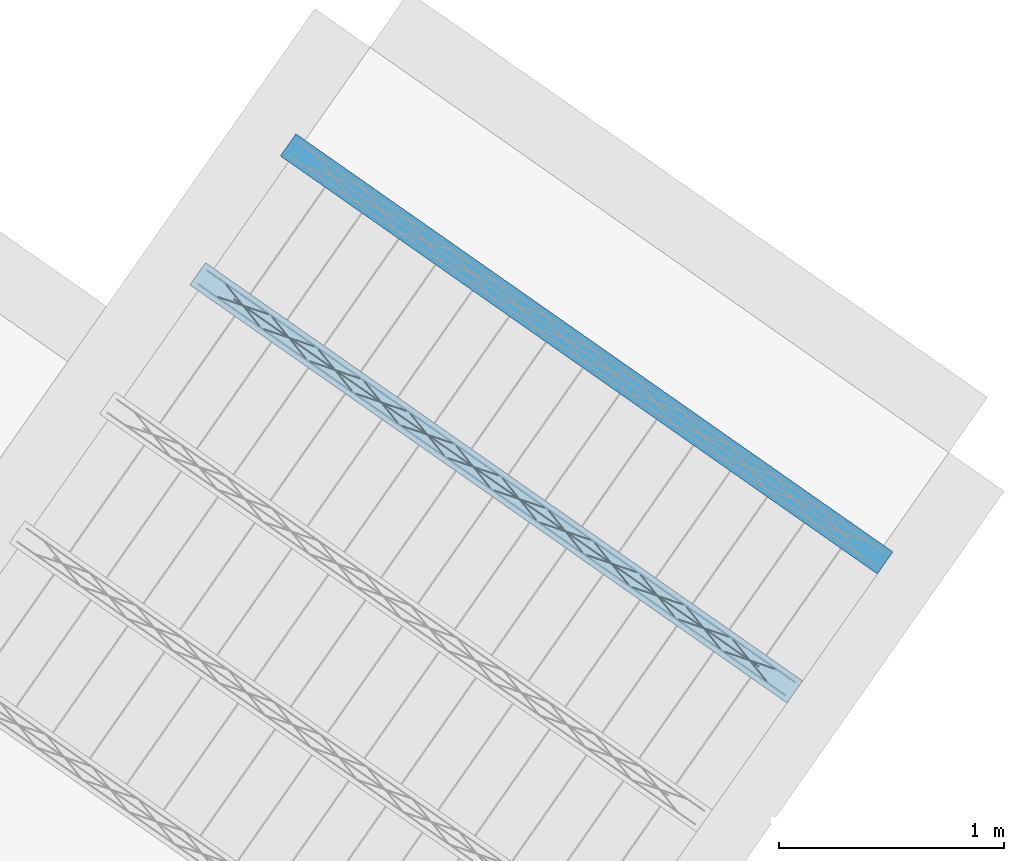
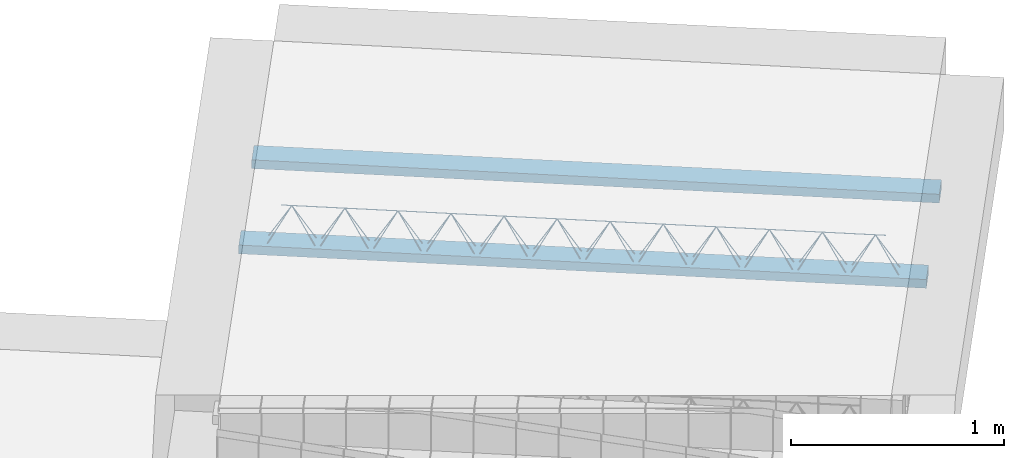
# One storey, part 26 of 46: 2 beams.
"""IFC2X3 building model written with IfcOpenShell, lengths in metres."""

from ifc_helpers import new_model, entity, si_unit, converted_unit, derived_unit, direction, frame, frame_2d, origin, origin_2d_with_axis, place, context, subcontext, project, spatial, rectangle, circle, extrude, material, type_object, element, save


model = new_model("IFC2X3")

# Units and contexts
model_context = context("Model", 3, precision=1e-05, world=origin(), true_north=direction((6.123031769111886e-17, 1.0)))
body_context = subcontext(model_context, "Body", "Model", "MODEL_VIEW")
ifc_project = project(units=[si_unit("LENGTHUNIT", "METRE"), si_unit("AREAUNIT", "SQUARE_METRE"), si_unit("VOLUMEUNIT", "CUBIC_METRE"), converted_unit("PLANEANGLEUNIT", "DEGREE", entity("IfcPlaneAngleMeasure", 0.017453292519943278), si_unit("PLANEANGLEUNIT", "RADIAN"), dimensions=[0, 0, 0, 0, 0, 0, 0]), si_unit("MASSUNIT", "GRAM", prefix="KILO"), derived_unit("MASSDENSITYUNIT", [(si_unit("MASSUNIT", "GRAM", prefix="KILO"), 1), (si_unit("LENGTHUNIT", "METRE"), -3)]), derived_unit("IONCONCENTRATIONUNIT", [(si_unit("MASSUNIT", "GRAM", prefix="KILO"), 1), (si_unit("LENGTHUNIT", "METRE"), -3)]), derived_unit("MOMENTOFINERTIAUNIT", [(si_unit("LENGTHUNIT", "METRE"), 4)]), si_unit("TIMEUNIT", "SECOND"), si_unit("FREQUENCYUNIT", "HERTZ"), si_unit("THERMODYNAMICTEMPERATUREUNIT", "DEGREE_CELSIUS"), derived_unit("THERMALTRANSMITTANCEUNIT", [(si_unit("MASSUNIT", "GRAM", prefix="KILO"), 1), (si_unit("THERMODYNAMICTEMPERATUREUNIT", "KELVIN"), -1), (si_unit("TIMEUNIT", "SECOND"), -3)]), derived_unit("THERMALCONDUCTANCEUNIT", [(si_unit("MASSUNIT", "GRAM", prefix="KILO"), 1), (si_unit("THERMODYNAMICTEMPERATUREUNIT", "KELVIN"), -1), (si_unit("TIMEUNIT", "SECOND"), -3), (si_unit("LENGTHUNIT", "METRE"), 1)]), derived_unit("VOLUMETRICFLOWRATEUNIT", [(si_unit("LENGTHUNIT", "METRE", prefix="DECI"), 3), (si_unit("TIMEUNIT", "SECOND"), -1)]), derived_unit("MASSFLOWRATEUNIT", [(si_unit("MASSUNIT", "GRAM", prefix="KILO"), 1), (si_unit("TIMEUNIT", "SECOND"), -1)]), derived_unit("ROTATIONALFREQUENCYUNIT", [(si_unit("TIMEUNIT", "SECOND"), -1)]), si_unit("ELECTRICCURRENTUNIT", "AMPERE"), si_unit("ELECTRICVOLTAGEUNIT", "VOLT"), si_unit("POWERUNIT", "WATT"), si_unit("FORCEUNIT", "NEWTON", prefix="KILO"), si_unit("ILLUMINANCEUNIT", "LUX"), si_unit("LUMINOUSFLUXUNIT", "LUMEN"), si_unit("LUMINOUSINTENSITYUNIT", "CANDELA"), si_unit("ENERGYUNIT", "JOULE"), derived_unit("USERDEFINED", [(si_unit("MASSUNIT", "GRAM", prefix="KILO"), -1), (si_unit("LENGTHUNIT", "METRE"), -2), (si_unit("TIMEUNIT", "SECOND"), 3), (si_unit("LUMINOUSFLUXUNIT", "LUMEN"), 1)]), derived_unit("USERDEFINED", [(si_unit("MASSUNIT", "GRAM", prefix="KILO"), 1), (si_unit("TIMEUNIT", "SECOND"), -3), (si_unit("LENGTHUNIT", "METRE"), 3), (si_unit("ELECTRICCURRENTUNIT", "AMPERE"), -2)]), derived_unit("SOUNDPOWERUNIT", [(si_unit("MASSUNIT", "GRAM", prefix="KILO"), 1), (si_unit("TIMEUNIT", "SECOND"), -3), (si_unit("LENGTHUNIT", "METRE"), 2)]), derived_unit("SOUNDPRESSUREUNIT", [(si_unit("MASSUNIT", "GRAM", prefix="KILO"), 1), (si_unit("LENGTHUNIT", "METRE"), -1), (si_unit("TIMEUNIT", "SECOND"), -2)]), derived_unit("LINEARVELOCITYUNIT", [(si_unit("LENGTHUNIT", "METRE"), 1), (si_unit("TIMEUNIT", "SECOND"), -1)]), si_unit("PRESSUREUNIT", "PASCAL"), derived_unit("USERDEFINED", [(si_unit("MASSUNIT", "GRAM", prefix="KILO"), 1), (si_unit("LENGTHUNIT", "METRE"), -2), (si_unit("TIMEUNIT", "SECOND"), -2)]), derived_unit("LINEARFORCEUNIT", [(si_unit("MASSUNIT", "GRAM", prefix="KILO"), 1), (si_unit("TIMEUNIT", "SECOND"), -2)]), derived_unit("PLANARFORCEUNIT", [(si_unit("MASSUNIT", "GRAM", prefix="KILO"), 1), (si_unit("LENGTHUNIT", "METRE"), -1), (si_unit("TIMEUNIT", "SECOND"), -2)]), derived_unit("SPECIFICHEATCAPACITYUNIT", [(si_unit("THERMODYNAMICTEMPERATUREUNIT", "KELVIN"), -1), (si_unit("LENGTHUNIT", "METRE"), 2), (si_unit("TIMEUNIT", "SECOND"), -2)]), derived_unit("HEATFLUXDENSITYUNIT", [(si_unit("MASSUNIT", "GRAM", prefix="KILO"), 1), (si_unit("TIMEUNIT", "SECOND"), -3)]), derived_unit("HEATINGVALUEUNIT", [(si_unit("LENGTHUNIT", "METRE"), 2), (si_unit("TIMEUNIT", "SECOND"), -2)]), derived_unit("VAPORPERMEABILITYUNIT", [(si_unit("LENGTHUNIT", "METRE"), -1), (si_unit("TIMEUNIT", "SECOND"), 1)]), derived_unit("DYNAMICVISCOSITYUNIT", [(si_unit("MASSUNIT", "GRAM", prefix="KILO"), 1), (si_unit("TIMEUNIT", "SECOND"), -1), (si_unit("LENGTHUNIT", "METRE"), -1)]), derived_unit("THERMALEXPANSIONCOEFFICIENTUNIT", [(si_unit("THERMODYNAMICTEMPERATUREUNIT", "KELVIN"), -1)]), derived_unit("MODULUSOFELASTICITYUNIT", [(si_unit("MASSUNIT", "GRAM", prefix="KILO"), 1), (si_unit("LENGTHUNIT", "METRE"), -1), (si_unit("TIMEUNIT", "SECOND"), -2)]), derived_unit("ISOTHERMALMOISTURECAPACITYUNIT", [(si_unit("MASSUNIT", "GRAM", prefix="KILO"), -1), (si_unit("LENGTHUNIT", "METRE"), 3)]), derived_unit("MOISTUREDIFFUSIVITYUNIT", [(si_unit("TIMEUNIT", "SECOND"), -1), (si_unit("LENGTHUNIT", "METRE"), 2)]), derived_unit("MASSPERLENGTHUNIT", [(si_unit("MASSUNIT", "GRAM", prefix="KILO"), 1), (si_unit("LENGTHUNIT", "METRE"), -1)]), derived_unit("THERMALRESISTANCEUNIT", [(si_unit("MASSUNIT", "GRAM", prefix="KILO"), -1), (si_unit("TIMEUNIT", "SECOND"), 3), (si_unit("THERMODYNAMICTEMPERATUREUNIT", "KELVIN"), 1)]), derived_unit("ACCELERATIONUNIT", [(si_unit("LENGTHUNIT", "METRE"), 1), (si_unit("TIMEUNIT", "SECOND"), -2)]), derived_unit("ANGULARVELOCITYUNIT", [(si_unit("TIMEUNIT", "SECOND"), -1), (si_unit("PLANEANGLEUNIT", "RADIAN"), 1)]), derived_unit("LINEARSTIFFNESSUNIT", [(si_unit("MASSUNIT", "GRAM", prefix="KILO"), 1), (si_unit("TIMEUNIT", "SECOND"), -2)]), derived_unit("WARPINGCONSTANTUNIT", [(si_unit("LENGTHUNIT", "METRE"), 6)]), derived_unit("LINEARMOMENTUNIT", [(si_unit("MASSUNIT", "GRAM", prefix="KILO"), 1), (si_unit("LENGTHUNIT", "METRE"), 1), (si_unit("TIMEUNIT", "SECOND"), -2)]), derived_unit("TORQUEUNIT", [(si_unit("MASSUNIT", "GRAM", prefix="KILO"), 1), (si_unit("LENGTHUNIT", "METRE"), 2), (si_unit("TIMEUNIT", "SECOND"), -2)])], contexts=[model_context])

# Site, building, storey
site_placement = place(None, origin())
site = spatial("IfcSite", under=ifc_project, at=site_placement, Name="Default", CompositionType="ELEMENT")
building_placement = place(site_placement, origin())
building = spatial("IfcBuilding", under=site, at=building_placement, CompositionType="ELEMENT")
storey_placement = place(building_placement, frame((0.0, 0.0, 99.52000000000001)))
storey = spatial("IfcBuildingStorey", under=building, at=storey_placement, Name="F1", CompositionType="ELEMENT", Elevation=99.52000000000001)

# Beams
beam_type = type_object("IfcBeamType", Name="Vigueta 4 (Paño 3) (Mf = 14.22)", PredefinedType="JOIST")
beam_1_placement = place(storey_placement, origin())
element("IfcBeam", 1, at=beam_1_placement, inside=storey, type_object=beam_type, Name="Vigueta 4 (Paño 3) (Mf = 14.22)", ObjectType="Mf = 14.22", context=body_context, shape_type="SweptSolid", body=[
    extrude(rectangle(XDim=3.24, YDim=0.11999999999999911, at=frame_2d((-6.661338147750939e-16, -8.118505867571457e-16), x_axis=(1.0, 0.0))), frame((13.009508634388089, 5.601322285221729, 0.2000000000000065), z_axis=(0.0, 0.0, 1.0), x_axis=(0.8191520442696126, -0.5735764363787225, 0.0)), (0.0, 0.0, 1.0), 0.04999999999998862),
    extrude(circle(Radius=0.0025, at=origin_2d_with_axis()), frame((14.296226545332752, 4.656404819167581, 0.22500000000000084), z_axis=(-0.8191520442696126, 0.5735764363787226, 0.0), x_axis=(-0.5735764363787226, -0.8191520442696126, 0.0)), (0.0, 0.0, 1.0), 3.192),
    extrude(circle(Radius=0.0025, at=origin_2d_with_axis()), frame((14.176800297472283, 4.783975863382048, 0.4500000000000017), z_axis=(-0.8191520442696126, 0.5735764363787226, 0.0), x_axis=(-0.5735764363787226, -0.8191520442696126, 0.0)), (0.0, 0.0, 1.0), 2.8499999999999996),
    extrude(circle(Radius=0.0025, at=origin_2d_with_axis()), frame((14.217587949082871, 4.711468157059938, 0.22500000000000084), z_axis=(-0.3145304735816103, 0.389334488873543, 0.8657304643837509), x_axis=(-0.7778747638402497, -0.6284193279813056, 0.0)), (0.0, 0.0, 1.0), 0.2598961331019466),
    extrude(circle(Radius=0.0025, at=origin_2d_with_axis()), frame((14.0127999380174, 4.854862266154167, 0.22499999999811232), z_axis=(0.47343050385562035, -0.1624017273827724, 0.8657304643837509), x_axis=(-0.3244721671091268, -0.9458952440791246, 0.0)), (0.0, 0.0, 1.0), 0.25989613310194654),
    extrude(circle(Radius=0.0025, at=origin_2d_with_axis()), frame((14.012799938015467, 4.854862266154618, 0.22500000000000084), z_axis=(-0.3145304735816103, 0.389334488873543, 0.8657304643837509), x_axis=(-0.7778747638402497, -0.6284193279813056, 0.0)), (0.0, 0.0, 1.0), 0.2598961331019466),
    extrude(circle(Radius=0.0025, at=origin_2d_with_axis()), frame((13.808011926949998, 4.998256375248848, 0.22499999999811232), z_axis=(0.47343050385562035, -0.1624017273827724, 0.8657304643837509), x_axis=(-0.3244721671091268, -0.9458952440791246, 0.0)), (0.0, 0.0, 1.0), 0.25989613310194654),
    extrude(circle(Radius=0.0025, at=origin_2d_with_axis()), frame((13.808011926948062, 4.9982563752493, 0.22500000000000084), z_axis=(-0.3145304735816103, 0.389334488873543, 0.8657304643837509), x_axis=(-0.7778747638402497, -0.6284193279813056, 0.0)), (0.0, 0.0, 1.0), 0.2598961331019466),
    extrude(circle(Radius=0.0025, at=origin_2d_with_axis()), frame((13.603223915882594, 5.141650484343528, 0.22499999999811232), z_axis=(0.47343050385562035, -0.1624017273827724, 0.8657304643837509), x_axis=(-0.3244721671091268, -0.9458952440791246, 0.0)), (0.0, 0.0, 1.0), 0.25989613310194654),
    extrude(circle(Radius=0.0025, at=origin_2d_with_axis()), frame((13.60322391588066, 5.141650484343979, 0.22500000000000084), z_axis=(-0.3145304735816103, 0.389334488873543, 0.8657304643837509), x_axis=(-0.7778747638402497, -0.6284193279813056, 0.0)), (0.0, 0.0, 1.0), 0.2598961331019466),
    extrude(circle(Radius=0.0025, at=origin_2d_with_axis()), frame((13.39843590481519, 5.285044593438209, 0.22499999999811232), z_axis=(0.47343050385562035, -0.1624017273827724, 0.8657304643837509), x_axis=(-0.3244721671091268, -0.9458952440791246, 0.0)), (0.0, 0.0, 1.0), 0.25989613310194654),
    extrude(circle(Radius=0.0025, at=origin_2d_with_axis()), frame((13.398435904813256, 5.285044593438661, 0.22500000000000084), z_axis=(-0.3145304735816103, 0.389334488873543, 0.8657304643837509), x_axis=(-0.7778747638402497, -0.6284193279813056, 0.0)), (0.0, 0.0, 1.0), 0.2598961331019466),
    extrude(circle(Radius=0.0025, at=origin_2d_with_axis()), frame((13.193647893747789, 5.4284387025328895, 0.22499999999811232), z_axis=(0.47343050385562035, -0.1624017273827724, 0.8657304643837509), x_axis=(-0.3244721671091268, -0.9458952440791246, 0.0)), (0.0, 0.0, 1.0), 0.25989613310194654),
    extrude(circle(Radius=0.0025, at=origin_2d_with_axis()), frame((13.193647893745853, 5.428438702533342, 0.22500000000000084), z_axis=(-0.3145304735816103, 0.389334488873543, 0.8657304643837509), x_axis=(-0.7778747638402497, -0.6284193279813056, 0.0)), (0.0, 0.0, 1.0), 0.2598961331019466),
    extrude(circle(Radius=0.0025, at=origin_2d_with_axis()), frame((12.988859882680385, 5.57183281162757, 0.22499999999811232), z_axis=(0.47343050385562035, -0.1624017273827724, 0.8657304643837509), x_axis=(-0.3244721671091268, -0.9458952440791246, 0.0)), (0.0, 0.0, 1.0), 0.25989613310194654),
    extrude(circle(Radius=0.0025, at=origin_2d_with_axis()), frame((12.988859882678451, 5.571832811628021, 0.22500000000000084), z_axis=(-0.3145304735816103, 0.389334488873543, 0.8657304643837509), x_axis=(-0.7778747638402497, -0.6284193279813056, 0.0)), (0.0, 0.0, 1.0), 0.2598961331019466),
    extrude(circle(Radius=0.0025, at=origin_2d_with_axis()), frame((12.784071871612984, 5.715226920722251, 0.22499999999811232), z_axis=(0.47343050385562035, -0.1624017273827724, 0.8657304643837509), x_axis=(-0.3244721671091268, -0.9458952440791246, 0.0)), (0.0, 0.0, 1.0), 0.25989613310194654),
    extrude(circle(Radius=0.0025, at=origin_2d_with_axis()), frame((12.784071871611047, 5.715226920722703, 0.22500000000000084), z_axis=(-0.3145304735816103, 0.389334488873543, 0.8657304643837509), x_axis=(-0.7778747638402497, -0.6284193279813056, 0.0)), (0.0, 0.0, 1.0), 0.2598961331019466),
    extrude(circle(Radius=0.0025, at=origin_2d_with_axis()), frame((12.57928386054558, 5.8586210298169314, 0.22499999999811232), z_axis=(0.47343050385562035, -0.1624017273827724, 0.8657304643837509), x_axis=(-0.3244721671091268, -0.9458952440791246, 0.0)), (0.0, 0.0, 1.0), 0.25989613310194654),
    extrude(circle(Radius=0.0025, at=origin_2d_with_axis()), frame((12.579283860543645, 5.8586210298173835, 0.22500000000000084), z_axis=(-0.3145304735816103, 0.389334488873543, 0.8657304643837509), x_axis=(-0.7778747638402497, -0.6284193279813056, 0.0)), (0.0, 0.0, 1.0), 0.2598961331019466),
    extrude(circle(Radius=0.0025, at=origin_2d_with_axis()), frame((12.374495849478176, 6.002015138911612, 0.22499999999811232), z_axis=(0.47343050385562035, -0.1624017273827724, 0.8657304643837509), x_axis=(-0.3244721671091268, -0.9458952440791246, 0.0)), (0.0, 0.0, 1.0), 0.25989613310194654),
    extrude(circle(Radius=0.0025, at=origin_2d_with_axis()), frame((12.374495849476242, 6.002015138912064, 0.22500000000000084), z_axis=(-0.3145304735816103, 0.389334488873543, 0.8657304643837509), x_axis=(-0.7778747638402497, -0.6284193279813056, 0.0)), (0.0, 0.0, 1.0), 0.2598961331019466),
    extrude(circle(Radius=0.0025, at=origin_2d_with_axis()), frame((12.169707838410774, 6.145409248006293, 0.22499999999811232), z_axis=(0.47343050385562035, -0.1624017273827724, 0.8657304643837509), x_axis=(-0.3244721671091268, -0.9458952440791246, 0.0)), (0.0, 0.0, 1.0), 0.25989613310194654),
    extrude(circle(Radius=0.0025, at=origin_2d_with_axis()), frame((12.169707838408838, 6.145409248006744, 0.22500000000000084), z_axis=(-0.3145304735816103, 0.389334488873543, 0.8657304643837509), x_axis=(-0.7778747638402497, -0.6284193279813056, 0.0)), (0.0, 0.0, 1.0), 0.2598961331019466),
    extrude(circle(Radius=0.0025, at=origin_2d_with_axis()), frame((11.964919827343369, 6.288803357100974, 0.22499999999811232), z_axis=(0.47343050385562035, -0.1624017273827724, 0.8657304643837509), x_axis=(-0.3244721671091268, -0.9458952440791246, 0.0)), (0.0, 0.0, 1.0), 0.25989613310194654),
    extrude(circle(Radius=0.0025, at=origin_2d_with_axis()), frame((11.964919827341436, 6.2888033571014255, 0.22500000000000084), z_axis=(-0.3145304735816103, 0.389334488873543, 0.8657304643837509), x_axis=(-0.7778747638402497, -0.6284193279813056, 0.0)), (0.0, 0.0, 1.0), 0.2598961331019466),
    extrude(circle(Radius=0.0025, at=origin_2d_with_axis()), frame((11.760131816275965, 6.432197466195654, 0.22499999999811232), z_axis=(0.47343050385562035, -0.1624017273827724, 0.8657304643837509), x_axis=(-0.3244721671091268, -0.9458952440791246, 0.0)), (0.0, 0.0, 1.0), 0.25989613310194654),
    extrude(circle(Radius=0.0025, at=origin_2d_with_axis()), frame((11.722790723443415, 6.546239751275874, 0.22500000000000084), z_axis=(0.8191520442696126, -0.5735764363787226, 0.0), x_axis=(-0.5735764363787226, -0.8191520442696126, 0.0)), (0.0, 0.0, 1.0), 3.1920000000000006),
    extrude(circle(Radius=0.0025, at=origin_2d_with_axis()), frame((14.258885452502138, 4.77044710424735, 0.22500000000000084), z_axis=(-0.47343050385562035, 0.1624017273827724, 0.8657304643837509), x_axis=(-0.3244721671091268, -0.9458952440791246, 0.0)), (0.0, 0.0, 1.0), 0.25989613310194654),
    extrude(circle(Radius=0.0025, at=origin_2d_with_axis()), frame((14.054097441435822, 4.913841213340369, 0.22499999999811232), z_axis=(0.3145304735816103, -0.389334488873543, 0.8657304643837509), x_axis=(-0.7778747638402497, -0.6284193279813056, 0.0)), (0.0, 0.0, 1.0), 0.2598961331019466),
    extrude(circle(Radius=0.0025, at=origin_2d_with_axis()), frame((14.054097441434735, 4.913841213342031, 0.22500000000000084), z_axis=(-0.47343050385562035, 0.1624017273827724, 0.8657304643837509), x_axis=(-0.3244721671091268, -0.9458952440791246, 0.0)), (0.0, 0.0, 1.0), 0.25989613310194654),
    extrude(circle(Radius=0.0025, at=origin_2d_with_axis()), frame((13.84930943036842, 5.057235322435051, 0.22499999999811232), z_axis=(0.3145304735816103, -0.389334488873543, 0.8657304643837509), x_axis=(-0.7778747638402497, -0.6284193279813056, 0.0)), (0.0, 0.0, 1.0), 0.2598961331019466),
    extrude(circle(Radius=0.0025, at=origin_2d_with_axis()), frame((13.849309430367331, 5.0572353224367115, 0.22500000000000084), z_axis=(-0.47343050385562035, 0.1624017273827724, 0.8657304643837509), x_axis=(-0.3244721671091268, -0.9458952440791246, 0.0)), (0.0, 0.0, 1.0), 0.25989613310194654),
    extrude(circle(Radius=0.0025, at=origin_2d_with_axis()), frame((13.644521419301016, 5.20062943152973, 0.22499999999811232), z_axis=(0.3145304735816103, -0.389334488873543, 0.8657304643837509), x_axis=(-0.7778747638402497, -0.6284193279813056, 0.0)), (0.0, 0.0, 1.0), 0.2598961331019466),
    extrude(circle(Radius=0.0025, at=origin_2d_with_axis()), frame((13.64452141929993, 5.200629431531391, 0.22500000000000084), z_axis=(-0.47343050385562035, 0.1624017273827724, 0.8657304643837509), x_axis=(-0.3244721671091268, -0.9458952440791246, 0.0)), (0.0, 0.0, 1.0), 0.25989613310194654),
    extrude(circle(Radius=0.0025, at=origin_2d_with_axis()), frame((13.43973340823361, 5.344023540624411, 0.22499999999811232), z_axis=(0.3145304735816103, -0.389334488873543, 0.8657304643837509), x_axis=(-0.7778747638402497, -0.6284193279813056, 0.0)), (0.0, 0.0, 1.0), 0.2598961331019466),
    extrude(circle(Radius=0.0025, at=origin_2d_with_axis()), frame((13.439733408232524, 5.344023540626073, 0.22500000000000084), z_axis=(-0.47343050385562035, 0.1624017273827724, 0.8657304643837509), x_axis=(-0.3244721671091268, -0.9458952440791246, 0.0)), (0.0, 0.0, 1.0), 0.25989613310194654),
    extrude(circle(Radius=0.0025, at=origin_2d_with_axis()), frame((13.23494539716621, 5.4874176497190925, 0.22499999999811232), z_axis=(0.3145304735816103, -0.389334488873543, 0.8657304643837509), x_axis=(-0.7778747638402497, -0.6284193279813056, 0.0)), (0.0, 0.0, 1.0), 0.2598961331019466),
    extrude(circle(Radius=0.0025, at=origin_2d_with_axis()), frame((13.23494539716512, 5.487417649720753, 0.22500000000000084), z_axis=(-0.47343050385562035, 0.1624017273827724, 0.8657304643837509), x_axis=(-0.3244721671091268, -0.9458952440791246, 0.0)), (0.0, 0.0, 1.0), 0.25989613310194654),
    extrude(circle(Radius=0.0025, at=origin_2d_with_axis()), frame((13.030157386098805, 5.630811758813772, 0.22499999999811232), z_axis=(0.3145304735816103, -0.389334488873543, 0.8657304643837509), x_axis=(-0.7778747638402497, -0.6284193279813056, 0.0)), (0.0, 0.0, 1.0), 0.2598961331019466),
    extrude(circle(Radius=0.0025, at=origin_2d_with_axis()), frame((13.030157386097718, 5.630811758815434, 0.22500000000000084), z_axis=(-0.47343050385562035, 0.1624017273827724, 0.8657304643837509), x_axis=(-0.3244721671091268, -0.9458952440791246, 0.0)), (0.0, 0.0, 1.0), 0.25989613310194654),
    extrude(circle(Radius=0.0025, at=origin_2d_with_axis()), frame((12.825369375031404, 5.774205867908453, 0.22499999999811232), z_axis=(0.3145304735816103, -0.389334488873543, 0.8657304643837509), x_axis=(-0.7778747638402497, -0.6284193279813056, 0.0)), (0.0, 0.0, 1.0), 0.2598961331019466),
    extrude(circle(Radius=0.0025, at=origin_2d_with_axis()), frame((12.825369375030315, 5.774205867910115, 0.22500000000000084), z_axis=(-0.47343050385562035, 0.1624017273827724, 0.8657304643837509), x_axis=(-0.3244721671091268, -0.9458952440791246, 0.0)), (0.0, 0.0, 1.0), 0.25989613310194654),
    extrude(circle(Radius=0.0025, at=origin_2d_with_axis()), frame((12.620581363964, 5.9175999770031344, 0.22499999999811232), z_axis=(0.3145304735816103, -0.389334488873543, 0.8657304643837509), x_axis=(-0.7778747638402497, -0.6284193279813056, 0.0)), (0.0, 0.0, 1.0), 0.2598961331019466),
    extrude(circle(Radius=0.0025, at=origin_2d_with_axis()), frame((12.620581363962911, 5.917599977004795, 0.22500000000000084), z_axis=(-0.47343050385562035, 0.1624017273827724, 0.8657304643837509), x_axis=(-0.3244721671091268, -0.9458952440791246, 0.0)), (0.0, 0.0, 1.0), 0.25989613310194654),
    extrude(circle(Radius=0.0025, at=origin_2d_with_axis()), frame((12.415793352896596, 6.060994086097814, 0.22499999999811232), z_axis=(0.3145304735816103, -0.389334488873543, 0.8657304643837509), x_axis=(-0.7778747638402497, -0.6284193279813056, 0.0)), (0.0, 0.0, 1.0), 0.2598961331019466),
    extrude(circle(Radius=0.0025, at=origin_2d_with_axis()), frame((12.41579335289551, 6.060994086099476, 0.22500000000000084), z_axis=(-0.47343050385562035, 0.1624017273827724, 0.8657304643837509), x_axis=(-0.3244721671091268, -0.9458952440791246, 0.0)), (0.0, 0.0, 1.0), 0.25989613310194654),
    extrude(circle(Radius=0.0025, at=origin_2d_with_axis()), frame((12.211005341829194, 6.204388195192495, 0.22499999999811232), z_axis=(0.3145304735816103, -0.389334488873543, 0.8657304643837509), x_axis=(-0.7778747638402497, -0.6284193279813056, 0.0)), (0.0, 0.0, 1.0), 0.2598961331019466),
    extrude(circle(Radius=0.0025, at=origin_2d_with_axis()), frame((12.211005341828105, 6.204388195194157, 0.22500000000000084), z_axis=(-0.47343050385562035, 0.1624017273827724, 0.8657304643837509), x_axis=(-0.3244721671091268, -0.9458952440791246, 0.0)), (0.0, 0.0, 1.0), 0.25989613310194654),
    extrude(circle(Radius=0.0025, at=origin_2d_with_axis()), frame((12.00621733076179, 6.347782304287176, 0.22499999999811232), z_axis=(0.3145304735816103, -0.389334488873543, 0.8657304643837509), x_axis=(-0.7778747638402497, -0.6284193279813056, 0.0)), (0.0, 0.0, 1.0), 0.2598961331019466),
    extrude(circle(Radius=0.0025, at=origin_2d_with_axis()), frame((12.006217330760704, 6.347782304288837, 0.22500000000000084), z_axis=(-0.47343050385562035, 0.1624017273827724, 0.8657304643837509), x_axis=(-0.3244721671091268, -0.9458952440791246, 0.0)), (0.0, 0.0, 1.0), 0.25989613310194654),
    extrude(circle(Radius=0.0025, at=origin_2d_with_axis()), frame((11.801429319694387, 6.491176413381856, 0.22499999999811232), z_axis=(0.3145304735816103, -0.389334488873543, 0.8657304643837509), x_axis=(-0.7778747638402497, -0.6284193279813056, 0.0)), (0.0, 0.0, 1.0), 0.2598961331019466),
])
ifc_material = material(Name="Hormigón armado")
beam_2_placement = place(storey_placement, origin())
element("IfcBeam", 2, at=beam_2_placement, inside=storey, material=ifc_material, Name="238208", context=body_context, shape_type="SweptSolid", body=[
    extrude(rectangle(XDim=0.04999999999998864, YDim=0.12000000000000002, at=frame_2d((0.0, -1.0651202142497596e-15), x_axis=(1.0, 0.0))), frame((12.083985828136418, 7.103922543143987, 0.22500000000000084), z_axis=(0.8191520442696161, -0.5735764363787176, 0.0), x_axis=(0.0, 0.0, -1.0)), (0.0, 0.0, 1.0), 3.2399999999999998),
])

save(model, "model.ifc")
